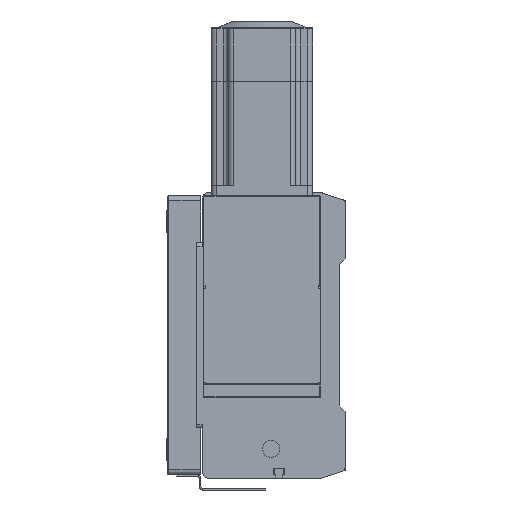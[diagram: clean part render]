
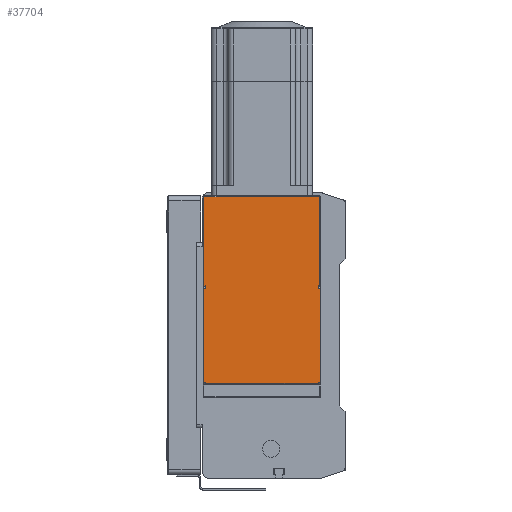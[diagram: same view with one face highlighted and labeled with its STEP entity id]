
A CAD part, left-side view. The second image highlights one B-rep face of the part: STEP entity #37704.
In plain terms, the highlighted planar face has unit normal (-1, 0, 0).
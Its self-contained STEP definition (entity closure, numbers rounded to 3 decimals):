
#24979=DIRECTION('',(0.,1.,0.));
#24980=VECTOR('',#24979,69.);
#24981=CARTESIAN_POINT('',(-333.5,15.5,82.5));
#24982=LINE('',#24981,#24980);
#25027=DIRECTION('',(0.,-1.,0.));
#25028=VECTOR('',#25027,1.);
#25029=CARTESIAN_POINT('',(-333.5,16.5,29.4));
#25030=LINE('',#25029,#25028);
#25221=DIRECTION('',(0.,0.,-1.));
#25222=VECTOR('',#25221,56.);
#25223=CARTESIAN_POINT('',(-333.5,85.,28.));
#25224=LINE('',#25223,#25222);
#25311=DIRECTION('',(0.,0.,-1.));
#25312=VECTOR('',#25311,1.4);
#25313=CARTESIAN_POINT('',(-333.5,83.5,29.4));
#25314=LINE('',#25313,#25312);
#25329=DIRECTION('',(0.,1.,0.));
#25330=VECTOR('',#25329,1.);
#25331=CARTESIAN_POINT('',(-333.5,83.5,29.4));
#25332=LINE('',#25331,#25330);
#25333=DIRECTION('',(0.,0.,-1.));
#25334=VECTOR('',#25333,1.4);
#25335=CARTESIAN_POINT('',(-333.5,16.5,29.4));
#25336=LINE('',#25335,#25334);
#25337=DIRECTION('',(0.,0.,-1.));
#25338=VECTOR('',#25337,56.);
#25339=CARTESIAN_POINT('',(-333.5,15.,28.));
#25340=LINE('',#25339,#25338);
#25341=DIRECTION('',(0.,1.,0.));
#25342=VECTOR('',#25341,1.5);
#25343=CARTESIAN_POINT('',(-333.5,15.,-28.));
#25344=LINE('',#25343,#25342);
#25345=DIRECTION('',(0.,0.,-1.));
#25346=VECTOR('',#25345,0.5);
#25347=CARTESIAN_POINT('',(-333.5,16.5,-28.));
#25348=LINE('',#25347,#25346);
#25354=DIRECTION('',(0.,0.,-1.));
#25355=VECTOR('',#25354,0.5);
#25356=CARTESIAN_POINT('',(-333.5,83.5,-28.));
#25357=LINE('',#25356,#25355);
#25370=DIRECTION('',(0.,-1.,0.));
#25371=VECTOR('',#25370,1.5);
#25372=CARTESIAN_POINT('',(-333.5,85.,-28.));
#25373=LINE('',#25372,#25371);
#25394=DIRECTION('',(0.,-1.,0.));
#25395=VECTOR('',#25394,67.);
#25396=CARTESIAN_POINT('',(-333.5,83.5,-28.5));
#25397=LINE('',#25396,#25395);
#26505=DIRECTION('',(0.,1.,0.));
#26506=VECTOR('',#26505,1.5);
#26507=CARTESIAN_POINT('',(-333.5,83.5,28.));
#26508=LINE('',#26507,#26506);
#26529=DIRECTION('',(0.,0.,-1.));
#26530=VECTOR('',#26529,53.1);
#26531=CARTESIAN_POINT('',(-333.5,84.5,82.5));
#26532=LINE('',#26531,#26530);
#26533=DIRECTION('',(0.,0.,1.));
#26534=VECTOR('',#26533,53.1);
#26535=CARTESIAN_POINT('',(-333.5,15.5,29.4));
#26536=LINE('',#26535,#26534);
#26673=DIRECTION('',(0.,1.,0.));
#26674=VECTOR('',#26673,1.5);
#26675=CARTESIAN_POINT('',(-333.5,15.,28.));
#26676=LINE('',#26675,#26674);
#30889=CARTESIAN_POINT('',(-333.5,84.5,29.4));
#30890=VERTEX_POINT('',#30889);
#30891=CARTESIAN_POINT('',(-333.5,83.5,29.4));
#30892=VERTEX_POINT('',#30891);
#31227=CARTESIAN_POINT('',(-333.5,16.5,-28.));
#31229=VERTEX_POINT('',#31227);
#31234=CARTESIAN_POINT('',(-333.5,16.5,-28.5));
#31236=VERTEX_POINT('',#31234);
#31283=CARTESIAN_POINT('',(-333.5,15.,-28.));
#31284=VERTEX_POINT('',#31283);
#31285=CARTESIAN_POINT('',(-333.5,15.,28.));
#31286=VERTEX_POINT('',#31285);
#31437=CARTESIAN_POINT('',(-333.5,83.5,28.));
#31438=CARTESIAN_POINT('',(-333.5,85.,28.));
#31439=VERTEX_POINT('',#31437);
#31440=VERTEX_POINT('',#31438);
#31441=CARTESIAN_POINT('',(-333.5,16.5,29.4));
#31442=CARTESIAN_POINT('',(-333.5,15.5,29.4));
#31443=VERTEX_POINT('',#31441);
#31444=VERTEX_POINT('',#31442);
#31445=CARTESIAN_POINT('',(-333.5,16.5,28.));
#31446=VERTEX_POINT('',#31445);
#31447=CARTESIAN_POINT('',(-333.5,83.5,-28.));
#31448=CARTESIAN_POINT('',(-333.5,83.5,-28.5));
#31449=VERTEX_POINT('',#31447);
#31450=VERTEX_POINT('',#31448);
#31459=CARTESIAN_POINT('',(-333.5,85.,-28.));
#31460=VERTEX_POINT('',#31459);
#31877=CARTESIAN_POINT('',(-333.5,84.5,82.5));
#31878=VERTEX_POINT('',#31877);
#31899=CARTESIAN_POINT('',(-333.5,15.5,82.5));
#31900=VERTEX_POINT('',#31899);
#37672=CARTESIAN_POINT('',(-333.5,50.,27.));
#37673=DIRECTION('',(1.,0.,0.));
#37674=DIRECTION('',(0.,0.,-1.));
#37675=AXIS2_PLACEMENT_3D('',#37672,#37673,#37674);
#37676=PLANE('',#37675);
#37678=ORIENTED_EDGE('',*,*,#37677,.F.);
#37680=ORIENTED_EDGE('',*,*,#37679,.F.);
#37681=ORIENTED_EDGE('',*,*,#37598,.F.);
#37683=ORIENTED_EDGE('',*,*,#37682,.F.);
#37684=ORIENTED_EDGE('',*,*,#37661,.F.);
#37685=ORIENTED_EDGE('',*,*,#37322,.T.);
#37687=ORIENTED_EDGE('',*,*,#37686,.F.);
#37688=ORIENTED_EDGE('',*,*,#37369,.F.);
#37690=ORIENTED_EDGE('',*,*,#37689,.F.);
#37691=ORIENTED_EDGE('',*,*,#37417,.F.);
#37692=ORIENTED_EDGE('',*,*,#37438,.T.);
#37694=ORIENTED_EDGE('',*,*,#37693,.F.);
#37695=ORIENTED_EDGE('',*,*,#37470,.T.);
#37697=ORIENTED_EDGE('',*,*,#37696,.T.);
#37699=ORIENTED_EDGE('',*,*,#37698,.T.);
#37701=ORIENTED_EDGE('',*,*,#37700,.F.);
#37702=EDGE_LOOP('',(#37678,#37680,#37681,#37683,#37684,#37685,#37687,#37688,
#37690,#37691,#37692,#37694,#37695,#37697,#37699,#37701));
#37703=FACE_OUTER_BOUND('',#37702,.F.);
#37322=EDGE_CURVE('',#30892,#30890,#25332,.T.);
#37369=EDGE_CURVE('',#31900,#31878,#24982,.T.);
#37417=EDGE_CURVE('',#31443,#31444,#25030,.T.);
#37438=EDGE_CURVE('',#31443,#31446,#25336,.T.);
#37470=EDGE_CURVE('',#31286,#31284,#25340,.T.);
#37598=EDGE_CURVE('',#31440,#31460,#25224,.T.);
#37661=EDGE_CURVE('',#30892,#31439,#25314,.T.);
#37677=EDGE_CURVE('',#31449,#31450,#25357,.T.);
#37679=EDGE_CURVE('',#31460,#31449,#25373,.T.);
#37682=EDGE_CURVE('',#31439,#31440,#26508,.T.);
#37686=EDGE_CURVE('',#31878,#30890,#26532,.T.);
#37689=EDGE_CURVE('',#31444,#31900,#26536,.T.);
#37693=EDGE_CURVE('',#31286,#31446,#26676,.T.);
#37696=EDGE_CURVE('',#31284,#31229,#25344,.T.);
#37698=EDGE_CURVE('',#31229,#31236,#25348,.T.);
#37700=EDGE_CURVE('',#31450,#31236,#25397,.T.);
#37704=ADVANCED_FACE('',(#37703),#37676,.F.);
